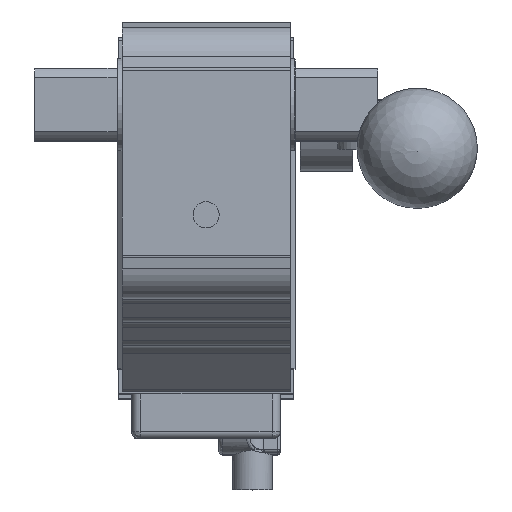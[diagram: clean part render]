
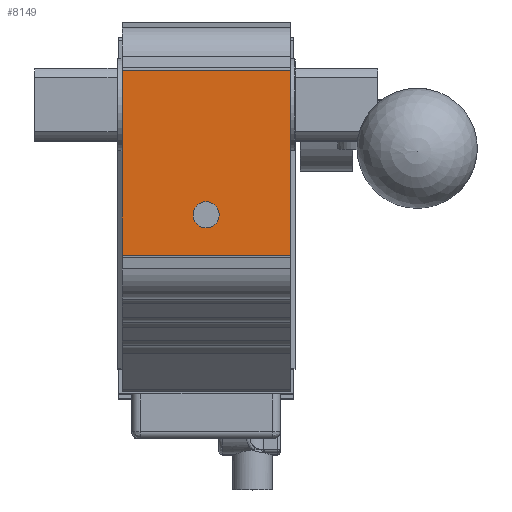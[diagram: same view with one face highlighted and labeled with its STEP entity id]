
A CAD part, top view. The second image highlights one B-rep face of the part: STEP entity #8149.
In plain terms, the highlighted planar face has unit normal (0, 0, 1).
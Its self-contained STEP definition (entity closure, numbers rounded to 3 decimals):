
#154=FACE_BOUND('',#1498,.T.);
#442=CIRCLE('',#8631,3.95);
#1031=FACE_OUTER_BOUND('',#1497,.T.);
#1497=EDGE_LOOP('',(#6807,#6808,#6809,#6810));
#1498=EDGE_LOOP('',(#6811));
#2152=LINE('',#13405,#2878);
#2163=LINE('',#13444,#2889);
#2177=LINE('',#13481,#2903);
#2178=LINE('',#13483,#2904);
#2878=VECTOR('',#10841,10.);
#2889=VECTOR('',#10874,10.);
#2903=VECTOR('',#10922,10.);
#2904=VECTOR('',#10925,10.);
#3441=VERTEX_POINT('',#12525);
#3722=VERTEX_POINT('',#13360);
#3743=VERTEX_POINT('',#13403);
#3759=VERTEX_POINT('',#13441);
#3760=VERTEX_POINT('',#13443);
#4362=EDGE_CURVE('',#3441,#3441,#442,.T.);
#4789=EDGE_CURVE('',#3722,#3743,#2152,.T.);
#4808=EDGE_CURVE('',#3760,#3759,#2163,.T.);
#4826=EDGE_CURVE('',#3722,#3759,#2177,.T.);
#4827=EDGE_CURVE('',#3743,#3760,#2178,.T.);
#6807=ORIENTED_EDGE('',*,*,#4789,.T.);
#6808=ORIENTED_EDGE('',*,*,#4827,.T.);
#6809=ORIENTED_EDGE('',*,*,#4808,.T.);
#6810=ORIENTED_EDGE('',*,*,#4826,.F.);
#6811=ORIENTED_EDGE('',*,*,#4362,.T.);
#7813=PLANE('',#9003);
#8149=ADVANCED_FACE('',(#1031,#154),#7813,.T.);
#8631=AXIS2_PLACEMENT_3D('',#12527,#9922,#9923);
#9003=AXIS2_PLACEMENT_3D('',#13484,#10926,#10927);
#9922=DIRECTION('center_axis',(0.,0.,-1.));
#9923=DIRECTION('ref_axis',(-1.,0.,0.));
#10841=DIRECTION('',(0.,1.,0.));
#10874=DIRECTION('',(0.,-1.,0.));
#10922=DIRECTION('',(-1.,0.,0.));
#10925=DIRECTION('',(-1.,0.,0.));
#10926=DIRECTION('center_axis',(0.,0.,1.));
#10927=DIRECTION('ref_axis',(0.,-1.,0.));
#12525=CARTESIAN_POINT('',(3.95,-33.5,58.5));
#12527=CARTESIAN_POINT('Origin',(0.,-33.5,58.5));
#13360=CARTESIAN_POINT('',(25.5,-45.689,58.5));
#13403=CARTESIAN_POINT('',(25.5,10.189,58.5));
#13405=CARTESIAN_POINT('',(25.5,5.095,58.5));
#13441=CARTESIAN_POINT('',(-25.5,-45.689,58.5));
#13443=CARTESIAN_POINT('',(-25.5,10.189,58.5));
#13444=CARTESIAN_POINT('',(-25.5,5.095,58.5));
#13481=CARTESIAN_POINT('',(0.,-45.689,58.5));
#13483=CARTESIAN_POINT('',(0.,10.189,58.5));
#13484=CARTESIAN_POINT('Origin',(0.,10.189,58.5));
